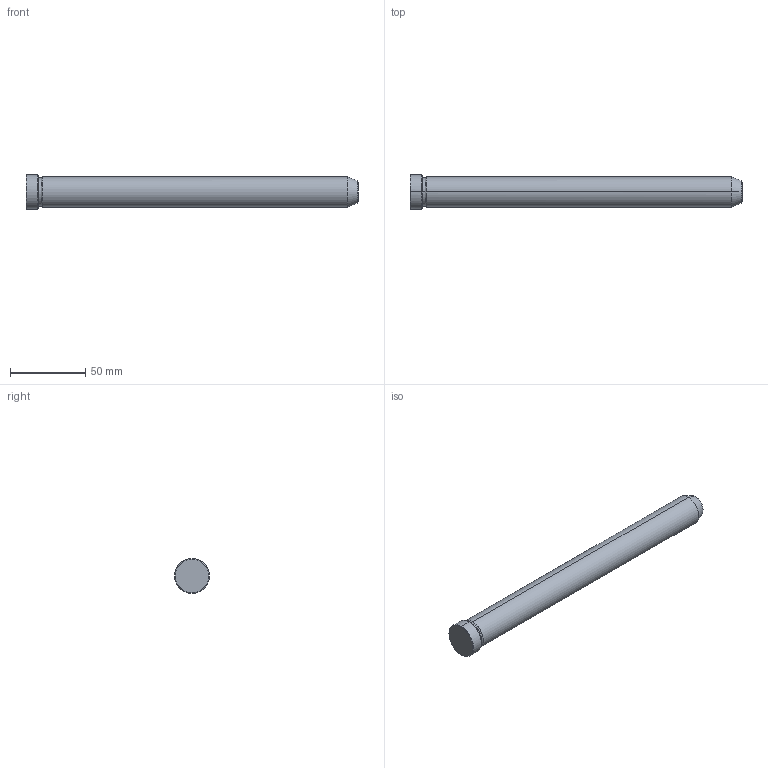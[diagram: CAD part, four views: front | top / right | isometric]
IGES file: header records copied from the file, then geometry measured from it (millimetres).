
Start section: START RECORD GO HERE.
Global section: file name: 549-20X220.igs; native system: DASSAULT SYSTEMES CATIA V5 R20 - www.3ds.com; preprocessor: CATIA Version 5 Release 20 ; author: Utente; organization: NB04-ASUS; date: 20211211.104909; units: millimetre
Bounding box: 220 x 23 x 23 mm (x, y, z)
Surface area: 14542.3 mm2 (no closed solid volume)
Topology: 0 solids, 0 shells, 19 faces, 112 edges, 112 vertices
Faces by surface type: revolution 16, plane 3
